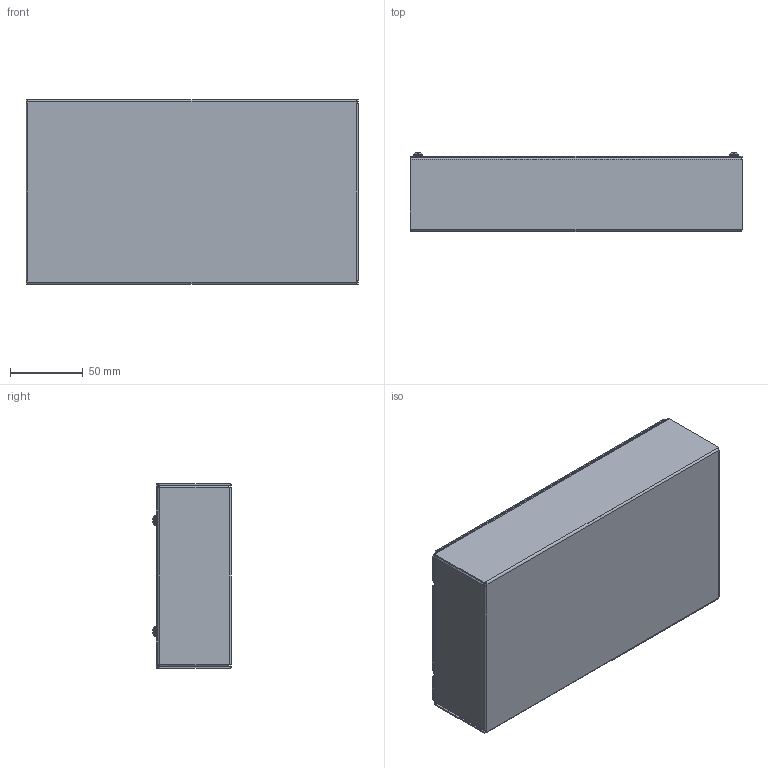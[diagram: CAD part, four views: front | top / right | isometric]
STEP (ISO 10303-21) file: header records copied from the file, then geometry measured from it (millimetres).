
FILE_DESCRIPTION((''),'2;1');
FILE_NAME('E:\Eng\Customer Service\Drawings\1441 & 1431\STEP Files\1441-14\1441-14 - Assembly.iam.stp','2013-07-10T11:32:50',(''),(''),'Autodesk Inventor 2013','Autodesk Inventor 2013','');
FILE_SCHEMA(('AUTOMOTIVE_DESIGN { 1 0 10303 214 1 1 1 1 }'));
Length unit declared in the file: inch
Products named in the file (4): 1441-14 - Assembly; 1441-14; 1431-14; 6-32 (SC18394)
Assembly tree (6 placements, depth 2):
  1441-14 - Assembly
    1441-14
    1431-14
    6-32 (SC18394)  x4
Bounding box: 228.6 x 54.23 x 127 mm (x, y, z)
Volume: 91925.5 mm3; surface area: 202714.8 mm2
Topology: 6 solids, 6 shells, 248 faces, 616 edges, 384 vertices
Faces by surface type: plane 184, cylinder 40, bspline 16, torus 8
Full cylindrical faces by diameter (mm): 2.946 x4, 3.404 x4, 6.731 x4
Entity records: 5190 total; most frequent: CARTESIAN_POINT 1247, ORIENTED_EDGE 794, DIRECTION 758, EDGE_CURVE 397, VECTOR 310, LINE 310, VERTEX_POINT 245, AXIS2_PLACEMENT_3D 224
